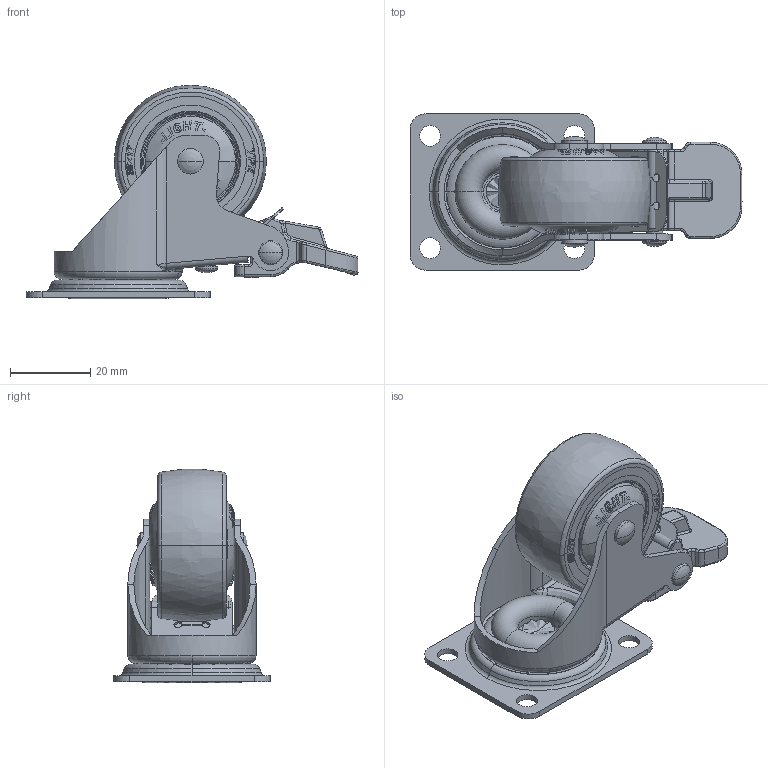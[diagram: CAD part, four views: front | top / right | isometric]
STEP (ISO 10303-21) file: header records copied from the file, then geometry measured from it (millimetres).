
FILE_DESCRIPTION((''),'2;1');
FILE_NAME('815-HDS_ASM','2021-12-17T',('Lenovo'),(''),'PRO/ENGINEER BY PARAMETRIC TECHNOLOGY CORPORATION, 2010280','PRO/ENGINEER BY PARAMETRIC TECHNOLOGY CORPORATION, 2010280','');
FILE_SCHEMA(('CONFIG_CONTROL_DESIGN'));
Length unit declared in the file: millimetre
Products named in the file (17): 815-DB; 815-GZS; 815-SZJ; 815-GZX; 815-XBP; 815-WD; 815-SCMD; 815-TP; 810-TPMD; 815-LZMD; 20-38-X_; 02-40_; 608_; 08-38-F_; 08-1-38__ASM; 0115-SB-20210110; 815-HDS_ASM
Assembly tree (17 placements, depth 3):
  815-HDS_ASM
    815-DB
    815-GZS
    815-SZJ
    815-GZX
    815-XBP
    815-WD
    815-SCMD
    815-TP
    810-TPMD
    815-LZMD
    08-1-38__ASM
      20-38-X_
      02-40_
      608_
      08-38-F_  x2
    0115-SB-20210110
Bounding box: 82.8 x 39 x 53.17 mm (x, y, z)
Volume: 30260.9 mm3; surface area: 46979.3 mm2
Topology: 54 solids, 59 shells, 1322 faces, 3418 edges, 2106 vertices
Faces by surface type: plane 531, extrusion 202, cylinder 199, torus 125, bspline 123, sphere 90, cone 52
Entity records: 43049 total; most frequent: CARTESIAN_POINT 15882, ORIENTED_EDGE 5728, DIRECTION 5130, EDGE_CURVE 2872, VERTEX_POINT 1858, AXIS2_PLACEMENT_3D 1854, VECTOR 1422, EDGE_LOOP 1298
